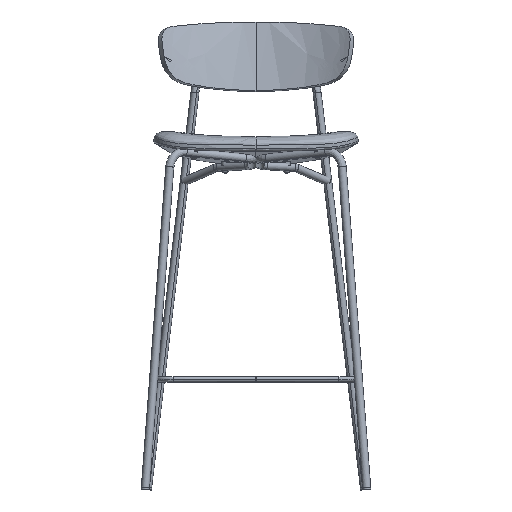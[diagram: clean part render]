
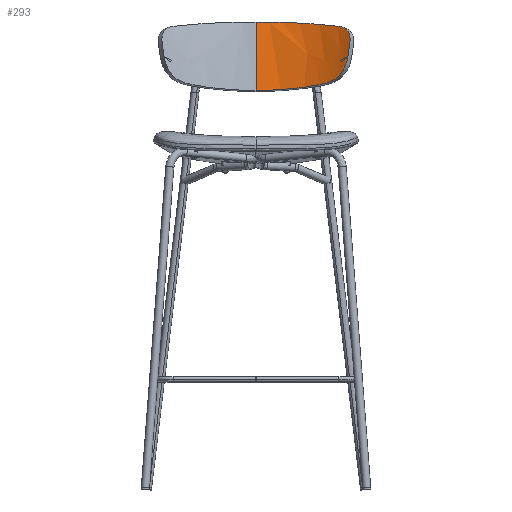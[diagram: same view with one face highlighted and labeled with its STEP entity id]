
A CAD part, front view. The second image highlights one B-rep face of the part: STEP entity #293.
In plain terms, the highlighted free-form (B-spline) face has degree [3, 2] with [5, 3] control points.
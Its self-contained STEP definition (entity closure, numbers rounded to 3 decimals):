
#100=(
BOUNDED_SURFACE()
B_SPLINE_SURFACE(3,2,((#6548,#6549,#6550),(#6551,#6552,#6553),(#6554,#6555,
#6556),(#6557,#6558,#6559),(#6560,#6561,#6562)),.UNSPECIFIED.,.F.,.F.,.F.)
B_SPLINE_SURFACE_WITH_KNOTS((4,1,4),(3,3),(-5.332,70.057,
145.446),(-3.978,234.884),.UNSPECIFIED.)
GEOMETRIC_REPRESENTATION_ITEM()
RATIONAL_B_SPLINE_SURFACE(((1.003,0.898,0.898),
(1.003,0.898,0.898),(1.003,
0.898,0.898),(1.003,0.898,
0.898),(1.003,0.898,0.898)))
REPRESENTATION_ITEM('')
SURFACE()
);
#293=ADVANCED_FACE('',(#487),#100,.T.);
#487=FACE_OUTER_BOUND('',#683,.T.);
#683=EDGE_LOOP('',(#1391,#1392));
#1391=ORIENTED_EDGE('',*,*,#1865,.T.);
#1392=ORIENTED_EDGE('',*,*,#1863,.T.);
#1863=EDGE_CURVE('',#2553,#2552,#2135,.T.);
#1865=EDGE_CURVE('',#2552,#2553,#2297,.T.);
#2135=(
BOUNDED_CURVE()
B_SPLINE_CURVE(3,(#6762,#6763,#6764,#6765,#6766,#6767,#6768),
 .UNSPECIFIED.,.F.,.F.)
B_SPLINE_CURVE_WITH_KNOTS((4,3,4),(-140.114,-70.057,
0.),.UNSPECIFIED.)
CURVE()
GEOMETRIC_REPRESENTATION_ITEM()
RATIONAL_B_SPLINE_CURVE((1.,0.965,0.931,0.898,
0.931,0.965,1.))
REPRESENTATION_ITEM('')
);
#2297=B_SPLINE_CURVE_WITH_KNOTS('',3,(#6776,#6777,#6778,#6779,#6780,#6781,
#6782,#6783,#6784,#6785,#6786,#6787,#6788,#6789,#6790,#6791,#6792,#6793,
#6794,#6795,#6796,#6797,#6798,#6799,#6800,#6801,#6802,#6803,#6804,#6805,
#6806,#6807,#6808,#6809,#6810,#6811),.UNSPECIFIED.,.F.,.F.,(4,2,3,2,2,2,
2,3,3,2,2,2,2,3,2,4),(-142.402,-73.146,-3.882,
-3.638,-3.393,-3.269,-3.139,-2.882,
25.85,26.111,26.242,26.365,26.608,
26.85,115.079,203.244),.UNSPECIFIED.);
#2552=VERTEX_POINT('',#6758);
#2553=VERTEX_POINT('',#6759);
#6548=CARTESIAN_POINT('',(189.507,139.669,803.515));
#6549=CARTESIAN_POINT('',(105.876,202.929,788.902));
#6550=CARTESIAN_POINT('',(0.,202.929,788.902));
#6551=CARTESIAN_POINT('',(189.507,143.816,828.328));
#6552=CARTESIAN_POINT('',(105.876,207.076,813.714));
#6553=CARTESIAN_POINT('',(0.,207.076,813.714));
#6554=CARTESIAN_POINT('',(189.507,153.615,877.605));
#6555=CARTESIAN_POINT('',(105.876,216.875,862.992));
#6556=CARTESIAN_POINT('',(0.,216.875,862.992));
#6557=CARTESIAN_POINT('',(189.507,166.422,926.187));
#6558=CARTESIAN_POINT('',(105.876,229.682,911.574));
#6559=CARTESIAN_POINT('',(0.,229.682,911.574));
#6560=CARTESIAN_POINT('',(189.507,173.578,950.305));
#6561=CARTESIAN_POINT('',(105.876,236.838,935.691));
#6562=CARTESIAN_POINT('',(0.,236.838,935.691));
#6758=CARTESIAN_POINT('',(0.,203.82,794.164));
#6759=CARTESIAN_POINT('',(0.,235.331,930.572));
#6762=CARTESIAN_POINT('',(0.,235.331,930.572));
#6763=CARTESIAN_POINT('',(0.,228.78,908.137));
#6764=CARTESIAN_POINT('',(0.,222.879,885.552));
#6765=CARTESIAN_POINT('',(0.,217.627,862.818));
#6766=CARTESIAN_POINT('',(0.,212.375,840.083));
#6767=CARTESIAN_POINT('',(0.,207.773,817.199));
#6768=CARTESIAN_POINT('',(0.,203.82,794.164));
#6776=CARTESIAN_POINT('',(0.,203.82,794.164));
#6777=CARTESIAN_POINT('',(23.683,203.82,794.164));
#6778=CARTESIAN_POINT('',(46.989,201.262,795.363));
#6779=CARTESIAN_POINT('',(91.817,191.58,799.913));
#6780=CARTESIAN_POINT('',(113.343,184.459,803.262));
#6781=CARTESIAN_POINT('',(133.581,175.38,807.55));
#6782=CARTESIAN_POINT('',(139.282,172.822,808.758));
#6783=CARTESIAN_POINT('',(144.911,170.174,810.527));
#6784=CARTESIAN_POINT('',(155.532,165.106,815.673));
#6785=CARTESIAN_POINT('',(160.555,162.669,819.06));
#6786=CARTESIAN_POINT('',(167.322,159.595,825.846));
#6787=CARTESIAN_POINT('',(169.428,158.683,828.396));
#6788=CARTESIAN_POINT('',(173.213,157.184,833.913));
#6789=CARTESIAN_POINT('',(174.902,156.597,836.924));
#6790=CARTESIAN_POINT('',(179.287,155.396,846.435));
#6791=CARTESIAN_POINT('',(181.349,155.318,853.462));
#6792=CARTESIAN_POINT('',(182.712,155.956,861.093));
#6793=CARTESIAN_POINT('',(184.39,156.743,870.49));
#6794=CARTESIAN_POINT('',(185.724,157.869,879.88));
#6795=CARTESIAN_POINT('',(186.737,159.367,889.34));
#6796=CARTESIAN_POINT('',(187.241,160.113,894.046));
#6797=CARTESIAN_POINT('',(187.241,161.246,898.604));
#6798=CARTESIAN_POINT('',(186.132,163.698,904.851));
#6799=CARTESIAN_POINT('',(185.574,164.645,906.84));
#6800=CARTESIAN_POINT('',(184.062,166.745,910.44));
#6801=CARTESIAN_POINT('',(183.105,167.911,912.098));
#6802=CARTESIAN_POINT('',(179.822,171.501,916.32));
#6803=CARTESIAN_POINT('',(177.15,173.974,918.198));
#6804=CARTESIAN_POINT('',(171.401,178.742,920.797));
#6805=CARTESIAN_POINT('',(168.288,181.065,921.521));
#6806=CARTESIAN_POINT('',(165.154,183.222,921.897));
#6807=CARTESIAN_POINT('',(141.765,199.315,924.709));
#6808=CARTESIAN_POINT('',(115.863,212.358,926.875));
#6809=CARTESIAN_POINT('',(60.273,230.369,929.805));
#6810=CARTESIAN_POINT('',(30.572,235.331,930.572));
#6811=CARTESIAN_POINT('',(0.,235.331,930.572));
